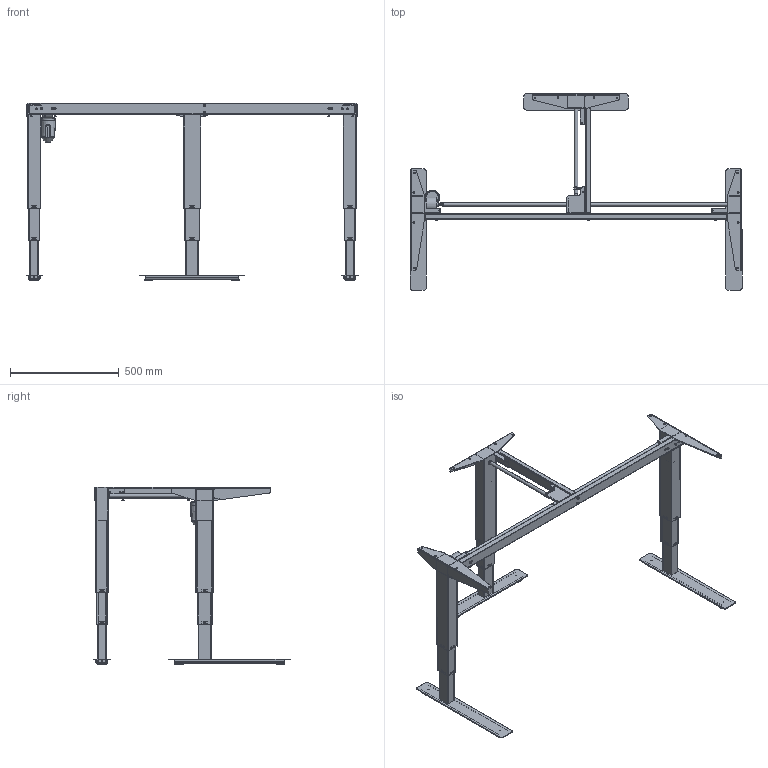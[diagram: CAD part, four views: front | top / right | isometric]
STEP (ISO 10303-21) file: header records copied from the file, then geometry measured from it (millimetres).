
FILE_DESCRIPTION (( 'STEP AP203' ), '1' );
FILE_NAME ('Tech-draw_501-37_XX152-091C.STEP', '2019-09-25T11:57:51', ( '' ), ( '' ), 'SwSTEP 2.0', 'SolidWorks 2018', '' );
FILE_SCHEMA (( 'CONFIG_CONTROL_DESIGN' ));
Length unit declared in the file: millimetre
Products named in the file (54): 343300_152; 340960; 350190; 345020; 341150_shell view; 149470_501-37 XB152-091C; 340760; 341130; 344430_black; 349820; 341220; 147230_black1; 147210_black; 147670; 138790_black1; 344860_shell view; 134920_black1; 352610; 147790_152; 308630; 341180_shell view; 138800_black1; 344070_shell view; 138760_black; Tech-draw_501-37_XX152-091C; 138770_black; 344080; 341170_shell view; 344840_shell view; 148070_black1; 350170; 138780_black; 137750_152; 340540_shell view; 147780_152; 350200; 349800; 350160; 147640_shell view; 341800_black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
Assembly tree (105 placements, depth 6):
  Tech-draw_501-37_XX152-091C
    149470_501-37 XB152-091C
      147770_152 shell view
        147780_152
          350320_152
        147790_152
          137750_152
            343300_152
            340560
            341220
        147640_shell view
          349800
          349820
          147650
            350160
            350170
        340960  x2
        308630  x2
      350200
      147670
        350190
        340560
        345020
      138760_black
        148070_black1
          341130
          341180_shell view
          348720_shell view
        138780_black
          138800_black1
            341150_shell view
            344070_shell view
            344080
          134950_black1
            341140_shell view
          341800_black  x4
        341800_black  x4
        324520_black  x2
        344430_black
        352610
      138750_black
        134920_black1
          341120
          341170_shell view
          340540_shell view
        138770_black
          138790_black1
            341150_shell view
            344070_shell view
            344080
          134950_black1
            341140_shell view
          341800_black  x4
        341800_black  x4
        324520_black  x2
      147210_black
        147230_black1
          341120
          344860_shell view
          340540_shell view
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Bounding box: 1529 x 905.2 x 817 mm (x, y, z)
Volume: 4057105.9 mm3; surface area: 3676678.2 mm2
Topology: 84 solids, 84 shells, 4823 faces, 12301 edges, 7732 vertices
Faces by surface type: plane 2860, cylinder 1400, bspline 310, cone 147, torus 106
Full cylindrical faces by diameter (mm): 2.8 x6, 3 x3, 3.2 x4, 3.5 x1, 4.5 x1, 4.6 x6, 5 x17, 6 x21, 6.2 x2, 6.3 x6, 7 x12, 7.6 x6, 8 x15, 8.2 x1, 8.5 x2, 9 x1, 10 x19, 11.9 x3, 12 x2, 13 x3, 15 x6, 16 x3, 17 x1, 18 x1, 20 x2, 37.6 x12, 60 x1
Entity records: 104206 total; most frequent: CARTESIAN_POINT 40559, ORIENTED_EDGE 11990, DIRECTION 11300, EDGE_CURVE 5995, AXIS2_PLACEMENT_3D 4010, VERTEX_POINT 3883, VECTOR 3280, LINE 3280
